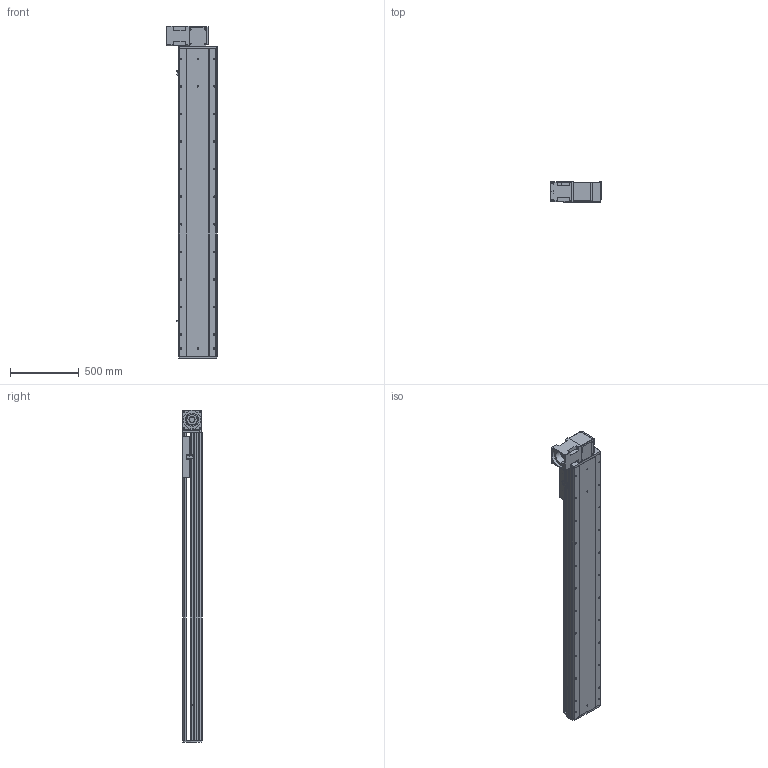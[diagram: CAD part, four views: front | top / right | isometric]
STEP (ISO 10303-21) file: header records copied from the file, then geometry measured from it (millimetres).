
FILE_DESCRIPTION (( 'STEP AP214' ), '1' );
FILE_NAME ('RTB28R-XX-1800-BR-M100-XX-C4.STEP', '2025-12-22T01:16:12', ( '' ), ( '' ), 'SwSTEP 2.0', 'SolidWorks 2018', '' );
FILE_SCHEMA (( 'AUTOMOTIVE_DESIGN' ));
Length unit declared in the file: millimetre
Products named in the file (4): RTB28S-GY-008^RTB28R-XX-XX-BR-M100-XX-C4; RTB28S-GY-011^RTB28R-XX-XX-BR-M100-XX-C4; RTB28R-XX-1800-BR-M100-XX-C4; RTB28S-GY-004^RTB28R-XX-XX-BR-M100-XX-C4
Assembly tree (3 placements, depth 2):
  RTB28R-XX-1800-BR-M100-XX-C4
    RTB28S-GY-011^RTB28R-XX-XX-BR-M100-XX-C4
    RTB28S-GY-004^RTB28R-XX-XX-BR-M100-XX-C4
    RTB28S-GY-008^RTB28R-XX-XX-BR-M100-XX-C4
Bounding box: 370 x 145 x 2407 mm (x, y, z)
Volume: 42210067.3 mm3; surface area: 3998892.6 mm2
Topology: 3 solids, 4 shells, 1028 faces, 2730 edges, 1756 vertices
Faces by surface type: plane 464, cylinder 393, bspline 87, cone 80, torus 4
Entity records: 44146 total; most frequent: CARTESIAN_POINT 11845, ORIENTED_EDGE 5396, DIRECTION 5262, EDGE_CURVE 2698, AXIS2_PLACEMENT_3D 1825, VERTEX_POINT 1756, LINE 1612, VECTOR 1612
